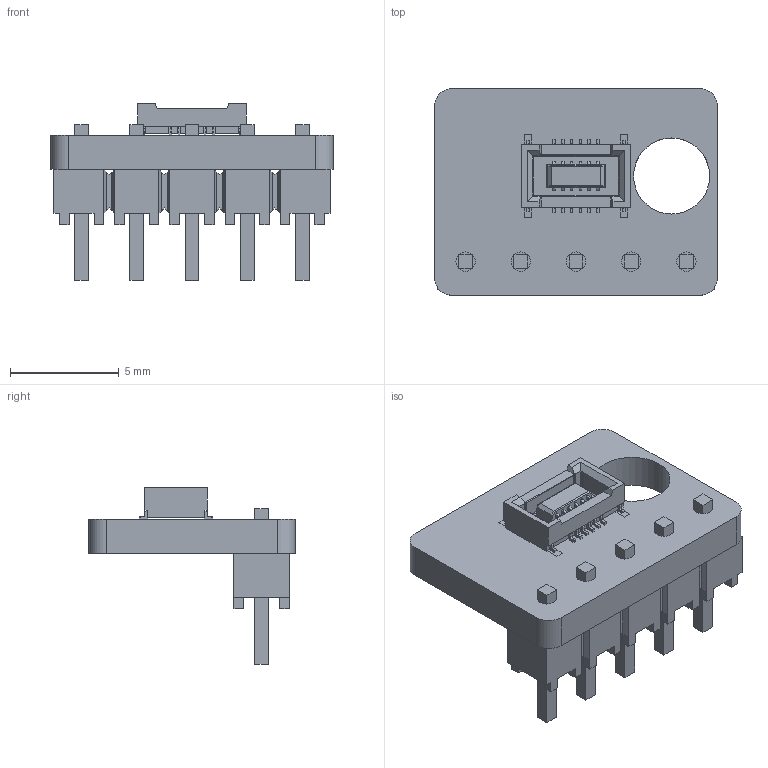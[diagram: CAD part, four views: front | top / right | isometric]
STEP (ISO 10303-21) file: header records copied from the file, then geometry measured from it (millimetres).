
FILE_DESCRIPTION (( 'STEP AP214' ), '1' );
FILE_NAME ('899-001.STEP', '2026-08-14T21:02:58', ( '' ), ( '' ), 'SwSTEP 2.0', 'SolidWorks 2020', '' );
FILE_SCHEMA (( 'AUTOMOTIVE_DESIGN' ));
Length unit declared in the file: millimetre
Products named in the file (7): DGS4XX_A board; MTSW-105-07-G-S-150_body.stp; DGS4XX_A; MTSW-105-07-S-150.stp; MTSW-105-07-G-S-150.stp; DF40B-12DS.stp; 899-001
Assembly tree (6 placements, depth 4):
  899-001
    DGS4XX_A
      DGS4XX_A board
      MTSW-105-07-G-S-150.stp
        MTSW-105-07-G-S-150_body.stp
        MTSW-105-07-S-150.stp
      DF40B-12DS.stp
Bounding box: 13 x 9.5 x 8.14 mm (x, y, z)
Volume: 262.5 mm3; surface area: 683 mm2
Topology: 4 solids, 4 shells, 633 faces, 1686 edges, 1100 vertices
Faces by surface type: plane 531, cylinder 102
Full cylindrical faces by diameter (mm): 0.889 x5, 3.5 x1
Entity records: 20068 total; most frequent: CARTESIAN_POINT 3740, ORIENTED_EDGE 3360, DIRECTION 3004, EDGE_CURVE 1680, VECTOR 1452, LINE 1452, VERTEX_POINT 1100, AXIS2_PLACEMENT_3D 776
